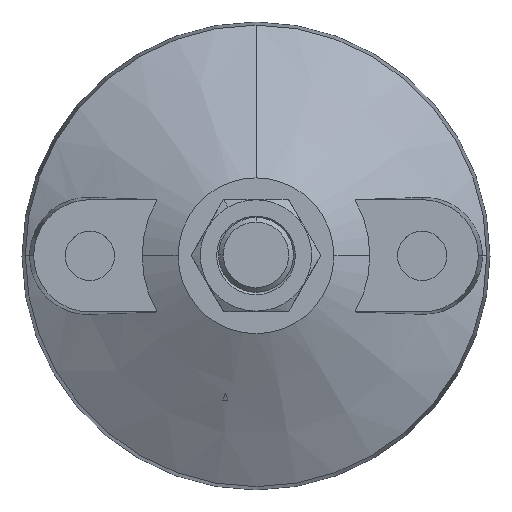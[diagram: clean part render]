
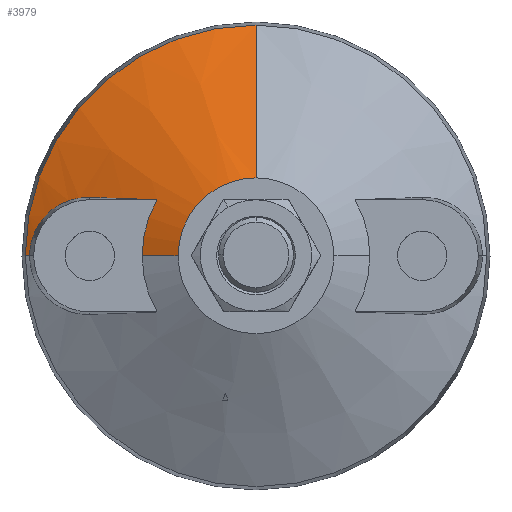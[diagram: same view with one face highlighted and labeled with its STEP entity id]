
A CAD part, top view. The second image highlights one B-rep face of the part: STEP entity #3979.
In plain terms, the highlighted conical face has half-angle 62.5 degrees and reference radius 16.644 mm.
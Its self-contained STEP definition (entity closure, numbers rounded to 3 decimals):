
#3 = CARTESIAN_POINT ( 'NONE',  ( -48.375, 0.442, 10.482 ) ) ;
#29 = AXIS2_PLACEMENT_3D ( 'NONE', #621, #3823, #1071 ) ;
#61 = CARTESIAN_POINT ( 'NONE',  ( -49.301, 0., 10. ) ) ;
#125 = CARTESIAN_POINT ( 'NONE',  ( -21.162, 12., 23. ) ) ;
#346 = LINE ( 'NONE', #1420, #1439 ) ;
#384 = B_SPLINE_CURVE_WITH_KNOTS ( 'NONE', 3,
 ( #125, #2858, #580, #3785, #1041, #4250 ),
 .UNSPECIFIED., .F., .F.,
 ( 4, 2, 4 ),
 ( 0., 0.008, 0.016 ),
 .UNSPECIFIED. ) ;
#413 = CARTESIAN_POINT ( 'NONE',  ( -37.073, 12.464, 15.305 ) ) ;
#440 = CARTESIAN_POINT ( 'NONE',  ( -44.962, 8.632, 11.834 ) ) ;
#455 = CARTESIAN_POINT ( 'NONE',  ( -21.162, 12., 23. ) ) ;
#528 = AXIS2_PLACEMENT_3D ( 'NONE', #1426, #5098, #1901 ) ;
#566 = DIRECTION ( 'NONE',  ( 0., 0., -1. ) ) ;
#580 = CARTESIAN_POINT ( 'NONE',  ( -25.968, 12.158, 20.745 ) ) ;
#621 = CARTESIAN_POINT ( 'NONE',  ( 0., 0., 27. ) ) ;
#878 = CARTESIAN_POINT ( 'NONE',  ( -35.5, 12.484, 16.075 ) ) ;
#902 = CARTESIAN_POINT ( 'NONE',  ( -46.262, 6.974, 11.31 ) ) ;
#908 = CARTESIAN_POINT ( 'NONE',  ( 0., 16.644, 27. ) ) ;
#1041 = CARTESIAN_POINT ( 'NONE',  ( -33.124, 12.402, 17.256 ) ) ;
#1064 = LINE ( 'NONE', #2610, #2141 ) ;
#1071 = DIRECTION ( 'NONE',  ( 0., 1., 0. ) ) ;
#1300 = AXIS2_PLACEMENT_3D ( 'NONE', #3318, #566, #3778 ) ;
#1336 = CARTESIAN_POINT ( 'NONE',  ( -38.63, 12.2, 14.576 ) ) ;
#1361 = CARTESIAN_POINT ( 'NONE',  ( -46.925, 5.866, 11.047 ) ) ;
#1420 = CARTESIAN_POINT ( 'NONE',  ( 0., 16.644, 27. ) ) ;
#1426 = CARTESIAN_POINT ( 'NONE',  ( 0., 0., 27. ) ) ;
#1439 = VECTOR ( 'NONE', #4172, 1000. ) ;
#1472 = DIRECTION ( 'NONE',  ( 0.887, 0., 0.462 ) ) ;
#1625 = CARTESIAN_POINT ( 'NONE',  ( -24.328, 0., 23. ) ) ;
#1705 = DIRECTION ( 'NONE',  ( 0., 0., 1. ) ) ;
#1800 = CARTESIAN_POINT ( 'NONE',  ( -39.79, 11.882, 14.047 ) ) ;
#1823 = CARTESIAN_POINT ( 'NONE',  ( -47.647, 4.298, 10.764 ) ) ;
#1833 = EDGE_CURVE ( 'NONE', #4806, #4244, #4515, .T. ) ;
#1901 = DIRECTION ( 'NONE',  ( 0., 1., 0. ) ) ;
#1902 = FACE_OUTER_BOUND ( 'NONE', #3323, .T. ) ;
#2018 = EDGE_CURVE ( 'NONE', #3600, #4244, #1064, .T. ) ;
#2039 = VECTOR ( 'NONE', #1472, 1000. ) ;
#2141 = VECTOR ( 'NONE', #3061, 1000. ) ;
#2196 = EDGE_CURVE ( 'NONE', #5172, #2312, #346, .T. ) ;
#2266 = CARTESIAN_POINT ( 'NONE',  ( -41.663, 11.116, 13.219 ) ) ;
#2288 = CARTESIAN_POINT ( 'NONE',  ( -48.19, 2.194, 10.553 ) ) ;
#2312 = VERTEX_POINT ( 'NONE', #4079 ) ;
#2380 = ORIENTED_EDGE ( 'NONE', *, *, #2018, .T. ) ;
#2610 = CARTESIAN_POINT ( 'NONE',  ( -32.972, 0., 18.5 ) ) ;
#2716 = CARTESIAN_POINT ( 'NONE',  ( -43.049, 10.253, 12.628 ) ) ;
#2745 = CARTESIAN_POINT ( 'NONE',  ( -48.352, 0.882, 10.491 ) ) ;
#2858 = CARTESIAN_POINT ( 'NONE',  ( -23.573, 12.078, 21.889 ) ) ;
#2959 = CONICAL_SURFACE ( 'NONE', #528, 16.644, 1.091 ) ;
#2976 = CIRCLE ( 'NONE', #1300, 24.328 ) ;
#3043 = EDGE_CURVE ( 'NONE', #4615, #3577, #2976, .T. ) ;
#3061 = DIRECTION ( 'NONE',  ( 0.887, 0., 0.462 ) ) ;
#3185 = CARTESIAN_POINT ( 'NONE',  ( -44.037, 9.485, 12.215 ) ) ;
#3211 = CARTESIAN_POINT ( 'NONE',  ( -48.375, 0., 10.482 ) ) ;
#3289 = ORIENTED_EDGE ( 'NONE', *, *, #1833, .F. ) ;
#3318 = CARTESIAN_POINT ( 'NONE',  ( 0., 0., 23. ) ) ;
#3323 = EDGE_LOOP ( 'NONE', ( #4525, #4946, #5747, #2380, #3289, #5658, #5676, #5023 ) ) ;
#3477 = CIRCLE ( 'NONE', #3481, 49.301 ) ;
#3481 = AXIS2_PLACEMENT_3D ( 'NONE', #4460, #1705, #4925 ) ;
#3577 = VERTEX_POINT ( 'NONE', #455 ) ;
#3600 = VERTEX_POINT ( 'NONE', #61 ) ;
#3632 = CARTESIAN_POINT ( 'NONE',  ( -36.289, 12.512, 15.683 ) ) ;
#3652 = CARTESIAN_POINT ( 'NONE',  ( -45.52, 8.005, 11.608 ) ) ;
#3654 = EDGE_CURVE ( 'NONE', #5172, #5713, #4930, .T. ) ;
#3778 = DIRECTION ( 'NONE',  ( 0., 1., 0. ) ) ;
#3785 = CARTESIAN_POINT ( 'NONE',  ( -30.743, 12.32, 18.429 ) ) ;
#3823 = DIRECTION ( 'NONE',  ( 0., 0., 1. ) ) ;
#3975 = CARTESIAN_POINT ( 'NONE',  ( -48.375, 0., 10.482 ) ) ;
#3979 = ADVANCED_FACE ( 'NONE', ( #1902 ), #2959, .T. ) ;
#4032 = EDGE_CURVE ( 'NONE', #4615, #5713, #4208, .T. ) ;
#4070 = EDGE_CURVE ( 'NONE', #3577, #4806, #384, .T. ) ;
#4079 = CARTESIAN_POINT ( 'NONE',  ( 0., 49.301, 10. ) ) ;
#4089 = CARTESIAN_POINT ( 'NONE',  ( -38.242, 12.28, 14.756 ) ) ;
#4113 = CARTESIAN_POINT ( 'NONE',  ( -46.495, 6.615, 11.218 ) ) ;
#4172 = DIRECTION ( 'NONE',  ( 0., 0.887, -0.462 ) ) ;
#4208 = LINE ( 'NONE', #4678, #2039 ) ;
#4244 = VERTEX_POINT ( 'NONE', #3975 ) ;
#4250 = CARTESIAN_POINT ( 'NONE',  ( -35.5, 12.484, 16.075 ) ) ;
#4275 = EDGE_CURVE ( 'NONE', #2312, #3600, #3477, .T. ) ;
#4460 = CARTESIAN_POINT ( 'NONE',  ( 0., 0., 10. ) ) ;
#4515 = B_SPLINE_CURVE_WITH_KNOTS ( 'NONE', 3,
 ( #878, #3632, #413, #4089, #1336, #4552, #1800, #5018, #2266, #5468, #2716, #5919, #3185, #440, #3652, #902, #4113, #1361, #4573, #1823, #5040, #2288, #5490, #2745, #3, #3211 ),
 .UNSPECIFIED., .F., .F.,
 ( 4, 2, 2, 2, 2, 2, 2, 2, 2, 2, 2, 2, 4 ),
 ( 0., 0.003, 0.004, 0.005, 0.008, 0.009, 0.01, 0.013, 0.014, 0.016, 0.018, 0.02, 0.021 ),
 .UNSPECIFIED. ) ;
#4525 = ORIENTED_EDGE ( 'NONE', *, *, #3654, .F. ) ;
#4552 = CARTESIAN_POINT ( 'NONE',  ( -39.403, 12.001, 14.222 ) ) ;
#4573 = CARTESIAN_POINT ( 'NONE',  ( -47.122, 5.479, 10.97 ) ) ;
#4615 = VERTEX_POINT ( 'NONE', #1625 ) ;
#4678 = CARTESIAN_POINT ( 'NONE',  ( -32.972, 0., 18.5 ) ) ;
#4687 = CARTESIAN_POINT ( 'NONE',  ( -16.644, 0., 27. ) ) ;
#4806 = VERTEX_POINT ( 'NONE', #5912 ) ;
#4925 = DIRECTION ( 'NONE',  ( -1., 0., 0. ) ) ;
#4930 = CIRCLE ( 'NONE', #29, 16.644 ) ;
#4946 = ORIENTED_EDGE ( 'NONE', *, *, #2196, .T. ) ;
#5018 = CARTESIAN_POINT ( 'NONE',  ( -40.932, 11.466, 13.537 ) ) ;
#5023 = ORIENTED_EDGE ( 'NONE', *, *, #4032, .T. ) ;
#5040 = CARTESIAN_POINT ( 'NONE',  ( -47.915, 3.477, 10.66 ) ) ;
#5098 = DIRECTION ( 'NONE',  ( 0., 0., -1. ) ) ;
#5172 = VERTEX_POINT ( 'NONE', #908 ) ;
#5468 = CARTESIAN_POINT ( 'NONE',  ( -42.708, 10.482, 12.772 ) ) ;
#5490 = CARTESIAN_POINT ( 'NONE',  ( -48.259, 1.756, 10.526 ) ) ;
#5658 = ORIENTED_EDGE ( 'NONE', *, *, #4070, .F. ) ;
#5676 = ORIENTED_EDGE ( 'NONE', *, *, #3043, .F. ) ;
#5713 = VERTEX_POINT ( 'NONE', #4687 ) ;
#5747 = ORIENTED_EDGE ( 'NONE', *, *, #4275, .T. ) ;
#5912 = CARTESIAN_POINT ( 'NONE',  ( -35.5, 12.484, 16.075 ) ) ;
#5919 = CARTESIAN_POINT ( 'NONE',  ( -43.712, 9.755, 12.35 ) ) ;
